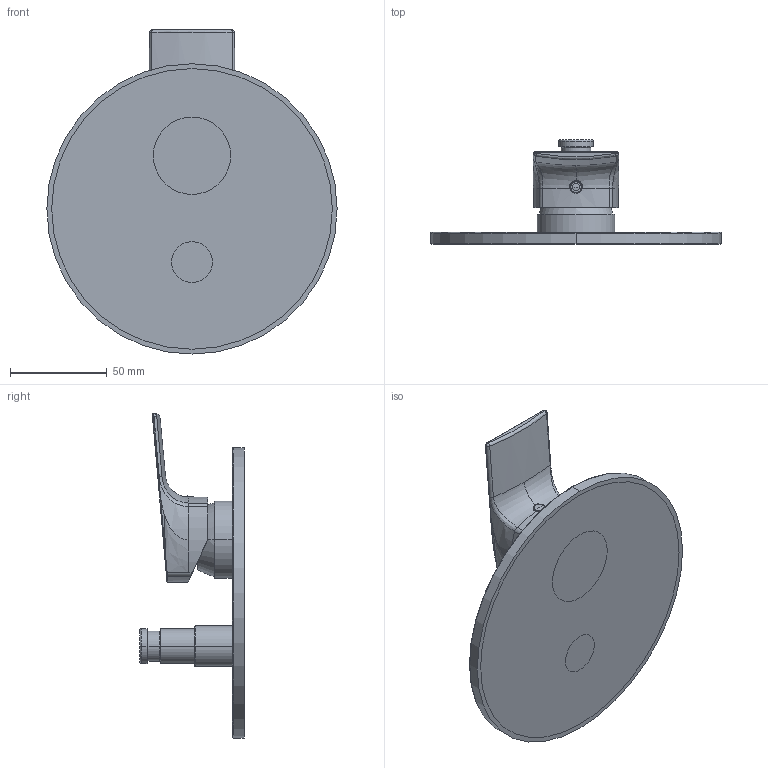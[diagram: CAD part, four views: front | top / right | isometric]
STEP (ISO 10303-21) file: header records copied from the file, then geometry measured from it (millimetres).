
FILE_DESCRIPTION((''),'2;1');
FILE_NAME('3D_SW0003','2025-10-10T10:07:53',('volponeff'),(''),'CREO PARAMETRIC BY PTC INC, 2022014','CREO PARAMETRIC BY PTC INC, 2022014','');
FILE_SCHEMA(('CONFIG_CONTROL_DESIGN'));
Length unit declared in the file: millimetre
Products named in the file (1): 3D_SW0003
Bounding box: 150 x 53.9 x 167.5 mm (x, y, z)
Volume: 109707.8 mm3; surface area: 90250.5 mm2
Topology: 1 solids, 1 shells, 287 faces, 718 edges, 434 vertices
Faces by surface type: cylinder 105, bspline 71, plane 59, cone 20, torus 18, sphere 14
Entity records: 17935 total; most frequent: CARTESIAN_POINT 11687, ORIENTED_EDGE 1428, DIRECTION 1100, EDGE_CURVE 714, AXIS2_PLACEMENT_3D 434, VERTEX_POINT 434, EDGE_LOOP 306, FACE_OUTER_BOUND 287
